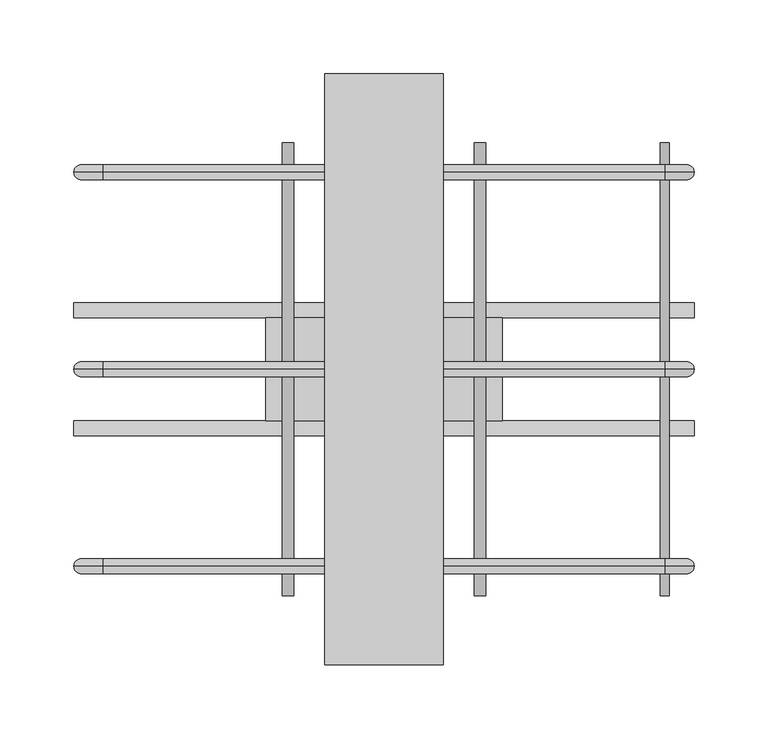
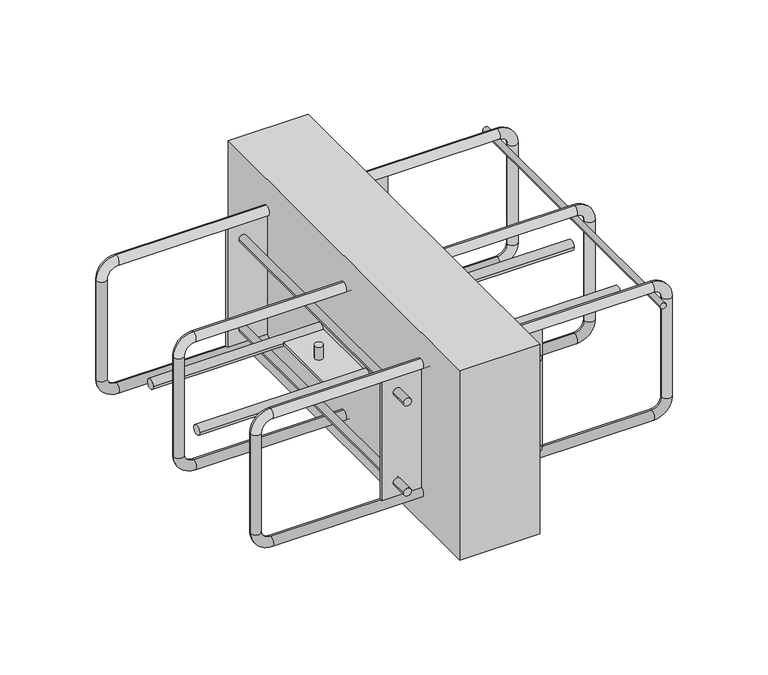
"""IFC4 building model written with IfcOpenShell, lengths in millimetres: proxy geometry, ACINOXplus_Typenreihe_Ux-Ox : OP+ S1."""

from ifc_helpers import new_model, si_unit, point, frame, frame_2d, origin, place, context, project, spatial, polyline, circle_curve, ellipse_curve, trimmed, segment, composite_curve, outline, extrude, source, transform, mapped, element, save
from ifc_brep_helpers import cylinder_surface, revolved_surface, advanced_brep


def generic_models_20547931(model_context):
    return source(origin(), model_context, "Body", "SolidModel", [
        extrude(outline(composite_curve([segment(trimmed(circle_curve(frame_2d((-40.5, 190.0)), 3.0), [point((-40.5, 193.0))], [point((-40.5, 187.0))], False, "CARTESIAN"), True, "CONTINUOUS"), segment(trimmed(circle_curve(frame_2d((-40.5, 190.0)), 3.0), [point((-40.5, 187.0))], [point((-40.5, 193.0))], False, "CARTESIAN"), True, "CONTINUOUS")], self_intersect=False)), frame((0.0, -153.3333333, 0.0), z_axis=(0.0, 1.0, 0.0), x_axis=(0.0, 0.0, 1.0)), (0.0, 0.0, 1.0), 306.6666667),
        extrude(outline(polyline([(40.0, 200.0), (40.0, -200.0), (-40.0, -200.0), (-40.0, 200.0), (40.0, 200.0)])), frame((0.0, 0.0, -200.0), z_axis=(0.0, 0.0, 1.0), x_axis=(1.0, 0.0, 0.0)), (0.0, 0.0, 1.0), 200.0),
        extrude(outline(composite_curve([segment(trimmed(circle_curve(frame_2d((-40.0, -100.0)), 5.0), [point((-45.0, -100.0))], [point((-35.0, -100.0))], False, "CARTESIAN"), True, "CONTINUOUS"), segment(trimmed(circle_curve(frame_2d((-40.0, -100.0)), 5.0), [point((-35.0, -100.0))], [point((-45.0, -100.0))], False, "CARTESIAN"), True, "CONTINUOUS")], self_intersect=False)), frame((-210.0, 0.0, 0.0), z_axis=(1.0, 0.0, 0.0), x_axis=(0.0, 1.0, 0.0)), (0.0, 0.0, 1.0), 420.0),
        extrude(outline(composite_curve([segment(trimmed(circle_curve(frame_2d((40.0, -100.0)), 5.0), [point((35.0, -100.0))], [point((45.0, -100.0))], False, "CARTESIAN"), True, "CONTINUOUS"), segment(trimmed(circle_curve(frame_2d((40.0, -100.0)), 5.0), [point((45.0, -100.0))], [point((35.0, -100.0))], False, "CARTESIAN"), True, "CONTINUOUS")], self_intersect=False)), frame((-210.0, 0.0, 0.0), z_axis=(1.0, 0.0, 0.0), x_axis=(0.0, 1.0, 0.0)), (0.0, 0.0, 1.0), 420.0),
        extrude(outline(composite_curve([segment(trimmed(circle_curve(frame_2d((-65.0, 0.0)), 4.0), [point((-61.0, 0.0))], [point((-69.0, 0.0))], False, "CARTESIAN"), True, "CONTINUOUS"), segment(trimmed(circle_curve(frame_2d((-65.0, 0.0)), 4.0), [point((-69.0, 0.0))], [point((-61.0, 0.0))], False, "CARTESIAN"), True, "CONTINUOUS")], self_intersect=False)), frame((0.0, 0.0, -98.5), z_axis=(0.0, 0.0, 1.0), x_axis=(1.0, 0.0, 0.0)), (0.0, 0.0, 1.0), 13.5),
        extrude(outline(composite_curve([segment(trimmed(circle_curve(frame_2d((65.0, 0.0)), 4.0), [point((69.0, 0.0))], [point((61.0, 0.0))], False, "CARTESIAN"), True, "CONTINUOUS"), segment(trimmed(circle_curve(frame_2d((65.0, 0.0)), 4.0), [point((61.0, 0.0))], [point((69.0, 0.0))], False, "CARTESIAN"), True, "CONTINUOUS")], self_intersect=False)), frame((0.0, 0.0, -98.5), z_axis=(0.0, 0.0, 1.0), x_axis=(1.0, 0.0, 0.0)), (0.0, 0.0, 1.0), 13.5),
        extrude(outline(composite_curve([segment(trimmed(circle_curve(frame_2d((-65.0, 0.0)), 4.0), [point((-69.0, 0.0))], [point((-61.0, 0.0))], False, "CARTESIAN"), True, "CONTINUOUS"), segment(trimmed(circle_curve(frame_2d((-65.0, 0.0)), 4.0), [point((-61.0, 0.0))], [point((-69.0, 0.0))], False, "CARTESIAN"), True, "CONTINUOUS")], self_intersect=False)), frame((0.0, 0.0, -115.0), z_axis=(0.0, 0.0, 1.0), x_axis=(1.0, 0.0, 0.0)), (0.0, 0.0, 1.0), 13.5),
        extrude(outline(composite_curve([segment(trimmed(circle_curve(frame_2d((65.0, 0.0)), 4.0), [point((61.0, 0.0))], [point((69.0, 0.0))], False, "CARTESIAN"), True, "CONTINUOUS"), segment(trimmed(circle_curve(frame_2d((65.0, 0.0)), 4.0), [point((69.0, 0.0))], [point((61.0, 0.0))], False, "CARTESIAN"), True, "CONTINUOUS")], self_intersect=False)), frame((0.0, 0.0, -115.0), z_axis=(0.0, 0.0, 1.0), x_axis=(1.0, 0.0, 0.0)), (0.0, 0.0, 1.0), 13.5),
        extrude(outline(polyline([(80.0, 35.0), (80.0, -35.0), (-80.0, -35.0), (-80.0, 35.0), (80.0, 35.0)])), frame((0.0, 0.0, -101.5), z_axis=(0.0, 0.0, 1.0), x_axis=(1.0, 0.0, 0.0)), (0.0, 0.0, 1.0), 3.0),
        extrude(outline(polyline([(80.0, -131.8333333), (80.0, -134.8333333), (-80.0, -134.8333333), (-80.0, -131.8333333), (80.0, -131.8333333)])), frame((0.0, 0.0, -162.5), z_axis=(0.0, 0.0, 1.0), x_axis=(1.0, 0.0, 0.0)), (0.0, 0.0, 1.0), 125.0),
        extrude(outline(polyline([(80.0, 134.8333333), (80.0, 131.8333333), (-80.0, 131.8333333), (-80.0, 134.8333333), (80.0, 134.8333333)])), frame((0.0, 0.0, -162.5), z_axis=(0.0, 0.0, 1.0), x_axis=(1.0, 0.0, 0.0)), (0.0, 0.0, 1.0), 125.0),
        extrude(outline(composite_curve([segment(trimmed(circle_curve(frame_2d((-147.5, -65.0)), 4.0), [point((-147.5, -69.0))], [point((-147.5, -61.0))], False, "CARTESIAN"), True, "CONTINUOUS"), segment(trimmed(circle_curve(frame_2d((-147.5, -65.0)), 4.0), [point((-147.5, -61.0))], [point((-147.5, -69.0))], False, "CARTESIAN"), True, "CONTINUOUS")], self_intersect=False)), frame((0.0, 134.8333333, 0.0), z_axis=(0.0, 1.0, 0.0), x_axis=(0.0, 0.0, 1.0)), (0.0, 0.0, 1.0), 18.5),
        extrude(outline(composite_curve([segment(trimmed(circle_curve(frame_2d((-147.5, -65.0)), 4.0), [point((-147.5, -61.0))], [point((-147.5, -69.0))], False, "CARTESIAN"), True, "CONTINUOUS"), segment(trimmed(circle_curve(frame_2d((-147.5, -65.0)), 4.0), [point((-147.5, -69.0))], [point((-147.5, -61.0))], False, "CARTESIAN"), True, "CONTINUOUS")], self_intersect=False)), frame((0.0, -153.3333333, 0.0), z_axis=(0.0, 1.0, 0.0), x_axis=(0.0, 0.0, 1.0)), (0.0, 0.0, 1.0), 18.5),
        extrude(outline(composite_curve([segment(trimmed(circle_curve(frame_2d((-147.5, -65.0)), 4.0), [point((-147.5, -69.0))], [point((-147.5, -61.0))], False, "CARTESIAN"), True, "CONTINUOUS"), segment(trimmed(circle_curve(frame_2d((-147.5, -65.0)), 4.0), [point((-147.5, -61.0))], [point((-147.5, -69.0))], False, "CARTESIAN"), True, "CONTINUOUS")], self_intersect=False)), frame((0.0, -131.8333333, 0.0), z_axis=(0.0, 1.0, 0.0), x_axis=(0.0, 0.0, 1.0)), (0.0, 0.0, 1.0), 263.6666667),
        extrude(outline(composite_curve([segment(trimmed(circle_curve(frame_2d((-147.5, 65.0)), 4.0), [point((-147.5, 61.0))], [point((-147.5, 69.0))], False, "CARTESIAN"), True, "CONTINUOUS"), segment(trimmed(circle_curve(frame_2d((-147.5, 65.0)), 4.0), [point((-147.5, 69.0))], [point((-147.5, 61.0))], False, "CARTESIAN"), True, "CONTINUOUS")], self_intersect=False)), frame((0.0, 134.8333333, 0.0), z_axis=(0.0, 1.0, 0.0), x_axis=(0.0, 0.0, 1.0)), (0.0, 0.0, 1.0), 18.5),
        extrude(outline(composite_curve([segment(trimmed(circle_curve(frame_2d((-147.5, 65.0)), 4.0), [point((-147.5, 69.0))], [point((-147.5, 61.0))], False, "CARTESIAN"), True, "CONTINUOUS"), segment(trimmed(circle_curve(frame_2d((-147.5, 65.0)), 4.0), [point((-147.5, 61.0))], [point((-147.5, 69.0))], False, "CARTESIAN"), True, "CONTINUOUS")], self_intersect=False)), frame((0.0, -153.3333333, 0.0), z_axis=(0.0, 1.0, 0.0), x_axis=(0.0, 0.0, 1.0)), (0.0, 0.0, 1.0), 18.5),
        extrude(outline(composite_curve([segment(trimmed(circle_curve(frame_2d((-147.5, 65.0)), 4.0), [point((-147.5, 61.0))], [point((-147.5, 69.0))], False, "CARTESIAN"), True, "CONTINUOUS"), segment(trimmed(circle_curve(frame_2d((-147.5, 65.0)), 4.0), [point((-147.5, 69.0))], [point((-147.5, 61.0))], False, "CARTESIAN"), True, "CONTINUOUS")], self_intersect=False)), frame((0.0, -131.8333333, 0.0), z_axis=(0.0, 1.0, 0.0), x_axis=(0.0, 0.0, 1.0)), (0.0, 0.0, 1.0), 263.6666667),
        extrude(outline(composite_curve([segment(trimmed(circle_curve(frame_2d((-52.5, -65.0)), 4.0), [point((-52.5, -69.0))], [point((-52.5, -61.0))], False, "CARTESIAN"), True, "CONTINUOUS"), segment(trimmed(circle_curve(frame_2d((-52.5, -65.0)), 4.0), [point((-52.5, -61.0))], [point((-52.5, -69.0))], False, "CARTESIAN"), True, "CONTINUOUS")], self_intersect=False)), frame((0.0, 134.8333333, 0.0), z_axis=(0.0, 1.0, 0.0), x_axis=(0.0, 0.0, 1.0)), (0.0, 0.0, 1.0), 18.5),
        extrude(outline(composite_curve([segment(trimmed(circle_curve(frame_2d((-52.5, -65.0)), 4.0), [point((-52.5, -61.0))], [point((-52.5, -69.0))], False, "CARTESIAN"), True, "CONTINUOUS"), segment(trimmed(circle_curve(frame_2d((-52.5, -65.0)), 4.0), [point((-52.5, -69.0))], [point((-52.5, -61.0))], False, "CARTESIAN"), True, "CONTINUOUS")], self_intersect=False)), frame((0.0, -153.3333333, 0.0), z_axis=(0.0, 1.0, 0.0), x_axis=(0.0, 0.0, 1.0)), (0.0, 0.0, 1.0), 18.5),
        extrude(outline(composite_curve([segment(trimmed(circle_curve(frame_2d((-52.5, -65.0)), 4.0), [point((-52.5, -69.0))], [point((-52.5, -61.0))], False, "CARTESIAN"), True, "CONTINUOUS"), segment(trimmed(circle_curve(frame_2d((-52.5, -65.0)), 4.0), [point((-52.5, -61.0))], [point((-52.5, -69.0))], False, "CARTESIAN"), True, "CONTINUOUS")], self_intersect=False)), frame((0.0, -131.8333333, 0.0), z_axis=(0.0, 1.0, 0.0), x_axis=(0.0, 0.0, 1.0)), (0.0, 0.0, 1.0), 263.6666667),
        extrude(outline(composite_curve([segment(trimmed(circle_curve(frame_2d((-52.5, 65.0)), 4.0), [point((-52.5, 61.0))], [point((-52.5, 69.0))], False, "CARTESIAN"), True, "CONTINUOUS"), segment(trimmed(circle_curve(frame_2d((-52.5, 65.0)), 4.0), [point((-52.5, 69.0))], [point((-52.5, 61.0))], False, "CARTESIAN"), True, "CONTINUOUS")], self_intersect=False)), frame((0.0, 134.8333333, 0.0), z_axis=(0.0, 1.0, 0.0), x_axis=(0.0, 0.0, 1.0)), (0.0, 0.0, 1.0), 18.5),
        extrude(outline(composite_curve([segment(trimmed(circle_curve(frame_2d((-52.5, 65.0)), 4.0), [point((-52.5, 69.0))], [point((-52.5, 61.0))], False, "CARTESIAN"), True, "CONTINUOUS"), segment(trimmed(circle_curve(frame_2d((-52.5, 65.0)), 4.0), [point((-52.5, 61.0))], [point((-52.5, 69.0))], False, "CARTESIAN"), True, "CONTINUOUS")], self_intersect=False)), frame((0.0, -153.3333333, 0.0), z_axis=(0.0, 1.0, 0.0), x_axis=(0.0, 0.0, 1.0)), (0.0, 0.0, 1.0), 18.5),
        extrude(outline(composite_curve([segment(trimmed(circle_curve(frame_2d((-52.5, 65.0)), 4.0), [point((-52.5, 61.0))], [point((-52.5, 69.0))], False, "CARTESIAN"), True, "CONTINUOUS"), segment(trimmed(circle_curve(frame_2d((-52.5, 65.0)), 4.0), [point((-52.5, 69.0))], [point((-52.5, 61.0))], False, "CARTESIAN"), True, "CONTINUOUS")], self_intersect=False)), frame((0.0, -131.8333333, 0.0), z_axis=(0.0, 1.0, 0.0), x_axis=(0.0, 0.0, 1.0)), (0.0, 0.0, 1.0), 263.6666667),
        advanced_brep(
        [(190.0, 0.0, -37.5), (190.0, 0.0, -27.5), (-190.0, 0.0, -27.5), (-190.0, 0.0, -37.5), (-200.0, 0.0, -47.5), (-210.0, 0.0, -47.5), (-210.0, 0.0, -152.5), (-200.0, 0.0, -152.5), (-190.0, 0.0, -162.5), (-190.0, 0.0, -172.5), (190.0, 0.0, -172.5), (190.0, 0.0, -162.5), (200.0, 0.0, -152.5), (210.0, 0.0, -152.5), (210.0, 0.0, -47.5), (200.0, 0.0, -47.5)],
        [
            (0, 1, circle_curve(frame((190.0, 0.0, -32.5), z_axis=(-1.0, 0.0, 0.0), x_axis=(0.0, 0.0, -1.0)), 5.0)),
            (1, 2),
            (2, 3, circle_curve(frame((-190.0, 0.0, -32.5), z_axis=(1.0, 0.0, 0.0), x_axis=(0.0, 0.0, -1.0)), 5.0)),
            (3, 0),
            (1, 0, circle_curve(frame((190.0, 0.0, -32.5), z_axis=(-1.0, 0.0, 0.0), x_axis=(0.0, 0.0, -1.0)), 5.0)),
            (3, 2, circle_curve(frame((-190.0, 0.0, -32.5), z_axis=(1.0, 0.0, 0.0), x_axis=(0.0, 0.0, -1.0)), 5.0)),
            (4, 3, circle_curve(frame((-190.0, 0.0, -47.5), z_axis=(0.0, 1.0, 0.0), x_axis=(0.0, 0.0, 1.0)), 10.0)),
            (2, 5, circle_curve(frame((-190.0, 0.0, -47.5), z_axis=(0.0, -1.0, 0.0), x_axis=(0.0, 0.0, 1.0)), 20.0)),
            (5, 4, circle_curve(frame((-205.0, 0.0, -47.5), z_axis=(0.0, 0.0, 1.0), x_axis=(1.0, 0.0, 0.0)), 5.0)),
            (4, 5, circle_curve(frame((-205.0, 0.0, -47.5), z_axis=(0.0, 0.0, 1.0), x_axis=(1.0, 0.0, 0.0)), 5.0)),
            (5, 6),
            (6, 7, circle_curve(frame((-205.0, 0.0, -152.5), z_axis=(0.0, 0.0, 1.0), x_axis=(1.0, 0.0, 0.0)), 5.0)),
            (7, 4),
            (7, 6, circle_curve(frame((-205.0, 0.0, -152.5), z_axis=(0.0, 0.0, 1.0), x_axis=(1.0, 0.0, 0.0)), 5.0)),
            (8, 7, circle_curve(frame((-190.0, 0.0, -152.5), z_axis=(0.0, 1.0, 0.0), x_axis=(-1.0, 0.0, 0.0)), 10.0)),
            (6, 9, circle_curve(frame((-190.0, 0.0, -152.5), z_axis=(0.0, -1.0, 0.0), x_axis=(-1.0, 0.0, 0.0)), 20.0)),
            (9, 8, circle_curve(frame((-190.0, 0.0, -167.5), z_axis=(-1.0, 0.0, 0.0), x_axis=(0.0, 0.0, 1.0)), 5.0)),
            (8, 9, circle_curve(frame((-190.0, 0.0, -167.5), z_axis=(-1.0, 0.0, 0.0), x_axis=(0.0, 0.0, 1.0)), 5.0)),
            (9, 10),
            (10, 11, circle_curve(frame((190.0, 0.0, -167.5), z_axis=(-1.0, 0.0, 0.0), x_axis=(0.0, 0.0, 1.0)), 5.0)),
            (11, 8),
            (11, 10, circle_curve(frame((190.0, 0.0, -167.5), z_axis=(-1.0, 0.0, 0.0), x_axis=(0.0, 0.0, 1.0)), 5.0)),
            (12, 11, circle_curve(frame((190.0, 0.0, -152.5), z_axis=(0.0, 1.0, 0.0), x_axis=(0.0, 0.0, -1.0)), 10.0)),
            (10, 13, circle_curve(frame((190.0, 0.0, -152.5), z_axis=(0.0, -1.0, 0.0), x_axis=(0.0, 0.0, -1.0)), 20.0)),
            (13, 12, circle_curve(frame((205.0, 0.0, -152.5), z_axis=(0.0, 0.0, -1.0), x_axis=(-1.0, 0.0, 0.0)), 5.0)),
            (12, 13, circle_curve(frame((205.0, 0.0, -152.5), z_axis=(0.0, 0.0, -1.0), x_axis=(-1.0, 0.0, 0.0)), 5.0)),
            (13, 14),
            (14, 15, circle_curve(frame((205.0, 0.0, -47.5), z_axis=(0.0, 0.0, -1.0), x_axis=(-1.0, 0.0, 0.0)), 5.0)),
            (15, 12),
            (15, 14, circle_curve(frame((205.0, 0.0, -47.5), z_axis=(0.0, 0.0, -1.0), x_axis=(-1.0, 0.0, 0.0)), 5.0)),
            (0, 15, circle_curve(frame((190.0, 0.0, -47.5), z_axis=(0.0, 1.0, 0.0), x_axis=(1.0, 0.0, 0.0)), 10.0)),
            (14, 1, circle_curve(frame((190.0, 0.0, -47.5), z_axis=(0.0, -1.0, 0.0), x_axis=(1.0, 0.0, 0.0)), 20.0)),
        ],
        [
            cylinder_surface(frame((190.0, 0.0, -32.5), z_axis=(1.0, 0.0, 0.0), x_axis=(0.0, 0.0, -1.0)), 5.0),
            revolved_surface(trimmed(ellipse_curve(frame((-190.0, 0.0, -32.5), z_axis=(1.0, 0.0, 0.0), x_axis=(0.0, 0.0, -1.0)), 5.0, 5.0), [point((-190.0, 0.0, -27.5))], [point((-190.0, 0.0, -37.5))], True, "CARTESIAN"), (-190.0, 0.0, -47.5), (0.0, -1.0, 0.0)),
            revolved_surface(trimmed(ellipse_curve(frame((-190.0, 0.0, -32.5), z_axis=(1.0, 0.0, 0.0), x_axis=(0.0, 0.0, -1.0)), 5.0, 5.0), [point((-190.0, 0.0, -37.5))], [point((-190.0, 0.0, -27.5))], True, "CARTESIAN"), (-190.0, 0.0, -47.5), (0.0, -1.0, 0.0)),
            cylinder_surface(frame((-205.0, 0.0, -47.5), z_axis=(0.0, 0.0, 1.0), x_axis=(1.0, 0.0, 0.0)), 5.0),
            revolved_surface(trimmed(ellipse_curve(frame((-205.0, 0.0, -152.5), z_axis=(0.0, 0.0, 1.0), x_axis=(1.0, 0.0, 0.0)), 5.0, 5.0), [point((-210.0, 0.0, -152.5))], [point((-200.0, 0.0, -152.5))], True, "CARTESIAN"), (-190.0, 0.0, -152.5), (0.0, -1.0, 0.0)),
            revolved_surface(trimmed(ellipse_curve(frame((-205.0, 0.0, -152.5), z_axis=(0.0, 0.0, 1.0), x_axis=(1.0, 0.0, 0.0)), 5.0, 5.0), [point((-200.0, 0.0, -152.5))], [point((-210.0, 0.0, -152.5))], True, "CARTESIAN"), (-190.0, 0.0, -152.5), (0.0, -1.0, 0.0)),
            cylinder_surface(frame((-190.0, 0.0, -167.5), z_axis=(-1.0, 0.0, 0.0), x_axis=(0.0, 0.0, 1.0)), 5.0),
            revolved_surface(trimmed(ellipse_curve(frame((190.0, 0.0, -167.5), z_axis=(-1.0, 0.0, 0.0), x_axis=(0.0, 0.0, 1.0)), 5.0, 5.0), [point((190.0, 0.0, -172.5))], [point((190.0, 0.0, -162.5))], True, "CARTESIAN"), (190.0, 0.0, -152.5), (0.0, -1.0, 0.0)),
            revolved_surface(trimmed(ellipse_curve(frame((190.0, 0.0, -167.5), z_axis=(-1.0, 0.0, 0.0), x_axis=(0.0, 0.0, 1.0)), 5.0, 5.0), [point((190.0, 0.0, -162.5))], [point((190.0, 0.0, -172.5))], True, "CARTESIAN"), (190.0, 0.0, -152.5), (0.0, -1.0, 0.0)),
            cylinder_surface(frame((205.0, 0.0, -152.5), z_axis=(0.0, 0.0, -1.0), x_axis=(-1.0, 0.0, 0.0)), 5.0),
            revolved_surface(trimmed(ellipse_curve(frame((205.0, 0.0, -47.5), z_axis=(0.0, 0.0, -1.0), x_axis=(-1.0, 0.0, 0.0)), 5.0, 5.0), [point((210.0, 0.0, -47.5))], [point((200.0, 0.0, -47.5))], True, "CARTESIAN"), (190.0, 0.0, -47.5), (0.0, -1.0, 0.0)),
            revolved_surface(trimmed(ellipse_curve(frame((205.0, 0.0, -47.5), z_axis=(0.0, 0.0, -1.0), x_axis=(-1.0, 0.0, 0.0)), 5.0, 5.0), [point((200.0, 0.0, -47.5))], [point((210.0, 0.0, -47.5))], True, "CARTESIAN"), (190.0, 0.0, -47.5), (0.0, -1.0, 0.0)),
        ],
        [
            (0, [[1, 2, 3, 4]]),
            (0, [[5, -4, 6, -2]]),
            (1, [[7, -3, 8, 9]]),
            (2, [[-8, -6, -7, 10]]),
            (3, [[-9, 11, 12, 13]]),
            (3, [[-10, -13, 14, -11]]),
            (4, [[15, -12, 16, 17]]),
            (5, [[-16, -14, -15, 18]]),
            (6, [[-17, 19, 20, 21]]),
            (6, [[-18, -21, 22, -19]]),
            (7, [[23, -20, 24, 25]]),
            (8, [[-24, -22, -23, 26]]),
            (9, [[-25, 27, 28, 29]]),
            (9, [[-26, -29, 30, -27]]),
            (10, [[31, -28, 32, -1]]),
            (11, [[-32, -30, -31, -5]]),
        ],
    ),
        advanced_brep(
        [(190.0, 133.3333333, -37.5), (190.0, 133.3333333, -27.5), (-190.0, 133.3333333, -27.5), (-190.0, 133.3333333, -37.5), (-200.0, 133.3333333, -47.5), (-210.0, 133.3333333, -47.5), (-210.0, 133.3333333, -152.5), (-200.0, 133.3333333, -152.5), (-190.0, 133.3333333, -162.5), (-190.0, 133.3333333, -172.5), (190.0, 133.3333333, -172.5), (190.0, 133.3333333, -162.5), (200.0, 133.3333333, -152.5), (210.0, 133.3333333, -152.5), (210.0, 133.3333333, -47.5), (200.0, 133.3333333, -47.5)],
        [
            (0, 1, circle_curve(frame((190.0, 133.3333333, -32.5), z_axis=(-1.0, 0.0, 0.0), x_axis=(0.0, 0.0, -1.0)), 5.0)),
            (1, 2),
            (2, 3, circle_curve(frame((-190.0, 133.3333333, -32.5), z_axis=(1.0, 0.0, 0.0), x_axis=(0.0, 0.0, -1.0)), 5.0)),
            (3, 0),
            (1, 0, circle_curve(frame((190.0, 133.3333333, -32.5), z_axis=(-1.0, 0.0, 0.0), x_axis=(0.0, 0.0, -1.0)), 5.0)),
            (3, 2, circle_curve(frame((-190.0, 133.3333333, -32.5), z_axis=(1.0, 0.0, 0.0), x_axis=(0.0, 0.0, -1.0)), 5.0)),
            (4, 3, circle_curve(frame((-190.0, 133.3333333, -47.5), z_axis=(0.0, 1.0, 0.0), x_axis=(0.0, 0.0, 1.0)), 10.0)),
            (2, 5, circle_curve(frame((-190.0, 133.3333333, -47.5), z_axis=(0.0, -1.0, 0.0), x_axis=(0.0, 0.0, 1.0)), 20.0)),
            (5, 4, circle_curve(frame((-205.0, 133.3333333, -47.5), z_axis=(0.0, 0.0, 1.0), x_axis=(1.0, 0.0, 0.0)), 5.0)),
            (4, 5, circle_curve(frame((-205.0, 133.3333333, -47.5), z_axis=(0.0, 0.0, 1.0), x_axis=(1.0, 0.0, 0.0)), 5.0)),
            (5, 6),
            (6, 7, circle_curve(frame((-205.0, 133.3333333, -152.5), z_axis=(0.0, 0.0, 1.0), x_axis=(1.0, 0.0, 0.0)), 5.0)),
            (7, 4),
            (7, 6, circle_curve(frame((-205.0, 133.3333333, -152.5), z_axis=(0.0, 0.0, 1.0), x_axis=(1.0, 0.0, 0.0)), 5.0)),
            (8, 7, circle_curve(frame((-190.0, 133.3333333, -152.5), z_axis=(0.0, 1.0, 0.0), x_axis=(-1.0, 0.0, 0.0)), 10.0)),
            (6, 9, circle_curve(frame((-190.0, 133.3333333, -152.5), z_axis=(0.0, -1.0, 0.0), x_axis=(-1.0, 0.0, 0.0)), 20.0)),
            (9, 8, circle_curve(frame((-190.0, 133.3333333, -167.5), z_axis=(-1.0, 0.0, 0.0), x_axis=(0.0, 0.0, 1.0)), 5.0)),
            (8, 9, circle_curve(frame((-190.0, 133.3333333, -167.5), z_axis=(-1.0, 0.0, 0.0), x_axis=(0.0, 0.0, 1.0)), 5.0)),
            (9, 10),
            (10, 11, circle_curve(frame((190.0, 133.3333333, -167.5), z_axis=(-1.0, 0.0, 0.0), x_axis=(0.0, 0.0, 1.0)), 5.0)),
            (11, 8),
            (11, 10, circle_curve(frame((190.0, 133.3333333, -167.5), z_axis=(-1.0, 0.0, 0.0), x_axis=(0.0, 0.0, 1.0)), 5.0)),
            (12, 11, circle_curve(frame((190.0, 133.3333333, -152.5), z_axis=(0.0, 1.0, 0.0), x_axis=(0.0, 0.0, -1.0)), 10.0)),
            (10, 13, circle_curve(frame((190.0, 133.3333333, -152.5), z_axis=(0.0, -1.0, 0.0), x_axis=(0.0, 0.0, -1.0)), 20.0)),
            (13, 12, circle_curve(frame((205.0, 133.3333333, -152.5), z_axis=(0.0, 0.0, -1.0), x_axis=(-1.0, 0.0, 0.0)), 5.0)),
            (12, 13, circle_curve(frame((205.0, 133.3333333, -152.5), z_axis=(0.0, 0.0, -1.0), x_axis=(-1.0, 0.0, 0.0)), 5.0)),
            (13, 14),
            (14, 15, circle_curve(frame((205.0, 133.3333333, -47.5), z_axis=(0.0, 0.0, -1.0), x_axis=(-1.0, 0.0, 0.0)), 5.0)),
            (15, 12),
            (15, 14, circle_curve(frame((205.0, 133.3333333, -47.5), z_axis=(0.0, 0.0, -1.0), x_axis=(-1.0, 0.0, 0.0)), 5.0)),
            (0, 15, circle_curve(frame((190.0, 133.3333333, -47.5), z_axis=(0.0, 1.0, 0.0), x_axis=(1.0, 0.0, 0.0)), 10.0)),
            (14, 1, circle_curve(frame((190.0, 133.3333333, -47.5), z_axis=(0.0, -1.0, 0.0), x_axis=(1.0, 0.0, 0.0)), 20.0)),
        ],
        [
            cylinder_surface(frame((190.0, 133.3333333, -32.5), z_axis=(1.0, 0.0, 0.0), x_axis=(0.0, 0.0, -1.0)), 5.0),
            revolved_surface(trimmed(ellipse_curve(frame((-190.0, 133.3333333, -32.5), z_axis=(1.0, 0.0, 0.0), x_axis=(0.0, 0.0, -1.0)), 5.0, 5.0), [point((-190.0, 133.3333333, -27.5))], [point((-190.0, 133.3333333, -37.5))], True, "CARTESIAN"), (-190.0, 133.3333333, -47.5), (0.0, -1.0, 0.0)),
            revolved_surface(trimmed(ellipse_curve(frame((-190.0, 133.3333333, -32.5), z_axis=(1.0, 0.0, 0.0), x_axis=(0.0, 0.0, -1.0)), 5.0, 5.0), [point((-190.0, 133.3333333, -37.5))], [point((-190.0, 133.3333333, -27.5))], True, "CARTESIAN"), (-190.0, 133.3333333, -47.5), (0.0, -1.0, 0.0)),
            cylinder_surface(frame((-205.0, 133.3333333, -47.5), z_axis=(0.0, 0.0, 1.0), x_axis=(1.0, 0.0, 0.0)), 5.0),
            revolved_surface(trimmed(ellipse_curve(frame((-205.0, 133.3333333, -152.5), z_axis=(0.0, 0.0, 1.0), x_axis=(1.0, 0.0, 0.0)), 5.0, 5.0), [point((-210.0, 133.3333333, -152.5))], [point((-200.0, 133.3333333, -152.5))], True, "CARTESIAN"), (-190.0, 133.3333333, -152.5), (0.0, -1.0, 0.0)),
            revolved_surface(trimmed(ellipse_curve(frame((-205.0, 133.3333333, -152.5), z_axis=(0.0, 0.0, 1.0), x_axis=(1.0, 0.0, 0.0)), 5.0, 5.0), [point((-200.0, 133.3333333, -152.5))], [point((-210.0, 133.3333333, -152.5))], True, "CARTESIAN"), (-190.0, 133.3333333, -152.5), (0.0, -1.0, 0.0)),
            cylinder_surface(frame((-190.0, 133.3333333, -167.5), z_axis=(-1.0, 0.0, 0.0), x_axis=(0.0, 0.0, 1.0)), 5.0),
            revolved_surface(trimmed(ellipse_curve(frame((190.0, 133.3333333, -167.5), z_axis=(-1.0, 0.0, 0.0), x_axis=(0.0, 0.0, 1.0)), 5.0, 5.0), [point((190.0, 133.3333333, -172.5))], [point((190.0, 133.3333333, -162.5))], True, "CARTESIAN"), (190.0, 133.3333333, -152.5), (0.0, -1.0, 0.0)),
            revolved_surface(trimmed(ellipse_curve(frame((190.0, 133.3333333, -167.5), z_axis=(-1.0, 0.0, 0.0), x_axis=(0.0, 0.0, 1.0)), 5.0, 5.0), [point((190.0, 133.3333333, -162.5))], [point((190.0, 133.3333333, -172.5))], True, "CARTESIAN"), (190.0, 133.3333333, -152.5), (0.0, -1.0, 0.0)),
            cylinder_surface(frame((205.0, 133.3333333, -152.5), z_axis=(0.0, 0.0, -1.0), x_axis=(-1.0, 0.0, 0.0)), 5.0),
            revolved_surface(trimmed(ellipse_curve(frame((205.0, 133.3333333, -47.5), z_axis=(0.0, 0.0, -1.0), x_axis=(-1.0, 0.0, 0.0)), 5.0, 5.0), [point((210.0, 133.3333333, -47.5))], [point((200.0, 133.3333333, -47.5))], True, "CARTESIAN"), (190.0, 133.3333333, -47.5), (0.0, -1.0, 0.0)),
            revolved_surface(trimmed(ellipse_curve(frame((205.0, 133.3333333, -47.5), z_axis=(0.0, 0.0, -1.0), x_axis=(-1.0, 0.0, 0.0)), 5.0, 5.0), [point((200.0, 133.3333333, -47.5))], [point((210.0, 133.3333333, -47.5))], True, "CARTESIAN"), (190.0, 133.3333333, -47.5), (0.0, -1.0, 0.0)),
        ],
        [
            (0, [[1, 2, 3, 4]]),
            (0, [[5, -4, 6, -2]]),
            (1, [[7, -3, 8, 9]]),
            (2, [[-8, -6, -7, 10]]),
            (3, [[-9, 11, 12, 13]]),
            (3, [[-10, -13, 14, -11]]),
            (4, [[15, -12, 16, 17]]),
            (5, [[-16, -14, -15, 18]]),
            (6, [[-17, 19, 20, 21]]),
            (6, [[-18, -21, 22, -19]]),
            (7, [[23, -20, 24, 25]]),
            (8, [[-24, -22, -23, 26]]),
            (9, [[-25, 27, 28, 29]]),
            (9, [[-26, -29, 30, -27]]),
            (10, [[31, -28, 32, -1]]),
            (11, [[-32, -30, -31, -5]]),
        ],
    ),
        advanced_brep(
        [(190.0, -133.3333333, -37.5), (190.0, -133.3333333, -27.5), (-190.0, -133.3333333, -27.5), (-190.0, -133.3333333, -37.5), (-200.0, -133.3333333, -47.5), (-210.0, -133.3333333, -47.5), (-210.0, -133.3333333, -152.5), (-200.0, -133.3333333, -152.5), (-190.0, -133.3333333, -162.5), (-190.0, -133.3333333, -172.5), (190.0, -133.3333333, -172.5), (190.0, -133.3333333, -162.5), (200.0, -133.3333333, -152.5), (210.0, -133.3333333, -152.5), (210.0, -133.3333333, -47.5), (200.0, -133.3333333, -47.5)],
        [
            (0, 1, circle_curve(frame((190.0, -133.3333333, -32.5), z_axis=(-1.0, 0.0, 0.0), x_axis=(0.0, 0.0, -1.0)), 5.0)),
            (1, 2),
            (2, 3, circle_curve(frame((-190.0, -133.3333333, -32.5), z_axis=(1.0, 0.0, 0.0), x_axis=(0.0, 0.0, -1.0)), 5.0)),
            (3, 0),
            (1, 0, circle_curve(frame((190.0, -133.3333333, -32.5), z_axis=(-1.0, 0.0, 0.0), x_axis=(0.0, 0.0, -1.0)), 5.0)),
            (3, 2, circle_curve(frame((-190.0, -133.3333333, -32.5), z_axis=(1.0, 0.0, 0.0), x_axis=(0.0, 0.0, -1.0)), 5.0)),
            (4, 3, circle_curve(frame((-190.0, -133.3333333, -47.5), z_axis=(0.0, 1.0, 0.0), x_axis=(0.0, 0.0, 1.0)), 10.0)),
            (2, 5, circle_curve(frame((-190.0, -133.3333333, -47.5), z_axis=(0.0, -1.0, 0.0), x_axis=(0.0, 0.0, 1.0)), 20.0)),
            (5, 4, circle_curve(frame((-205.0, -133.3333333, -47.5), z_axis=(0.0, 0.0, 1.0), x_axis=(1.0, 0.0, 0.0)), 5.0)),
            (4, 5, circle_curve(frame((-205.0, -133.3333333, -47.5), z_axis=(0.0, 0.0, 1.0), x_axis=(1.0, 0.0, 0.0)), 5.0)),
            (5, 6),
            (6, 7, circle_curve(frame((-205.0, -133.3333333, -152.5), z_axis=(0.0, 0.0, 1.0), x_axis=(1.0, 0.0, 0.0)), 5.0)),
            (7, 4),
            (7, 6, circle_curve(frame((-205.0, -133.3333333, -152.5), z_axis=(0.0, 0.0, 1.0), x_axis=(1.0, 0.0, 0.0)), 5.0)),
            (8, 7, circle_curve(frame((-190.0, -133.3333333, -152.5), z_axis=(0.0, 1.0, 0.0), x_axis=(-1.0, 0.0, 0.0)), 10.0)),
            (6, 9, circle_curve(frame((-190.0, -133.3333333, -152.5), z_axis=(0.0, -1.0, 0.0), x_axis=(-1.0, 0.0, 0.0)), 20.0)),
            (9, 8, circle_curve(frame((-190.0, -133.3333333, -167.5), z_axis=(-1.0, 0.0, 0.0), x_axis=(0.0, 0.0, 1.0)), 5.0)),
            (8, 9, circle_curve(frame((-190.0, -133.3333333, -167.5), z_axis=(-1.0, 0.0, 0.0), x_axis=(0.0, 0.0, 1.0)), 5.0)),
            (9, 10),
            (10, 11, circle_curve(frame((190.0, -133.3333333, -167.5), z_axis=(-1.0, 0.0, 0.0), x_axis=(0.0, 0.0, 1.0)), 5.0)),
            (11, 8),
            (11, 10, circle_curve(frame((190.0, -133.3333333, -167.5), z_axis=(-1.0, 0.0, 0.0), x_axis=(0.0, 0.0, 1.0)), 5.0)),
            (12, 11, circle_curve(frame((190.0, -133.3333333, -152.5), z_axis=(0.0, 1.0, 0.0), x_axis=(0.0, 0.0, -1.0)), 10.0)),
            (10, 13, circle_curve(frame((190.0, -133.3333333, -152.5), z_axis=(0.0, -1.0, 0.0), x_axis=(0.0, 0.0, -1.0)), 20.0)),
            (13, 12, circle_curve(frame((205.0, -133.3333333, -152.5), z_axis=(0.0, 0.0, -1.0), x_axis=(-1.0, 0.0, 0.0)), 5.0)),
            (12, 13, circle_curve(frame((205.0, -133.3333333, -152.5), z_axis=(0.0, 0.0, -1.0), x_axis=(-1.0, 0.0, 0.0)), 5.0)),
            (13, 14),
            (14, 15, circle_curve(frame((205.0, -133.3333333, -47.5), z_axis=(0.0, 0.0, -1.0), x_axis=(-1.0, 0.0, 0.0)), 5.0)),
            (15, 12),
            (15, 14, circle_curve(frame((205.0, -133.3333333, -47.5), z_axis=(0.0, 0.0, -1.0), x_axis=(-1.0, 0.0, 0.0)), 5.0)),
            (0, 15, circle_curve(frame((190.0, -133.3333333, -47.5), z_axis=(0.0, 1.0, 0.0), x_axis=(1.0, 0.0, 0.0)), 10.0)),
            (14, 1, circle_curve(frame((190.0, -133.3333333, -47.5), z_axis=(0.0, -1.0, 0.0), x_axis=(1.0, 0.0, 0.0)), 20.0)),
        ],
        [
            cylinder_surface(frame((190.0, -133.3333333, -32.5), z_axis=(1.0, 0.0, 0.0), x_axis=(0.0, 0.0, -1.0)), 5.0),
            revolved_surface(trimmed(ellipse_curve(frame((-190.0, -133.3333333, -32.5), z_axis=(1.0, 0.0, 0.0), x_axis=(0.0, 0.0, -1.0)), 5.0, 5.0), [point((-190.0, -133.3333333, -27.5))], [point((-190.0, -133.3333333, -37.5))], True, "CARTESIAN"), (-190.0, -133.3333333, -47.5), (0.0, -1.0, 0.0)),
            revolved_surface(trimmed(ellipse_curve(frame((-190.0, -133.3333333, -32.5), z_axis=(1.0, 0.0, 0.0), x_axis=(0.0, 0.0, -1.0)), 5.0, 5.0), [point((-190.0, -133.3333333, -37.5))], [point((-190.0, -133.3333333, -27.5))], True, "CARTESIAN"), (-190.0, -133.3333333, -47.5), (0.0, -1.0, 0.0)),
            cylinder_surface(frame((-205.0, -133.3333333, -47.5), z_axis=(0.0, 0.0, 1.0), x_axis=(1.0, 0.0, 0.0)), 5.0),
            revolved_surface(trimmed(ellipse_curve(frame((-205.0, -133.3333333, -152.5), z_axis=(0.0, 0.0, 1.0), x_axis=(1.0, 0.0, 0.0)), 5.0, 5.0), [point((-210.0, -133.3333333, -152.5))], [point((-200.0, -133.3333333, -152.5))], True, "CARTESIAN"), (-190.0, -133.3333333, -152.5), (0.0, -1.0, 0.0)),
            revolved_surface(trimmed(ellipse_curve(frame((-205.0, -133.3333333, -152.5), z_axis=(0.0, 0.0, 1.0), x_axis=(1.0, 0.0, 0.0)), 5.0, 5.0), [point((-200.0, -133.3333333, -152.5))], [point((-210.0, -133.3333333, -152.5))], True, "CARTESIAN"), (-190.0, -133.3333333, -152.5), (0.0, -1.0, 0.0)),
            cylinder_surface(frame((-190.0, -133.3333333, -167.5), z_axis=(-1.0, 0.0, 0.0), x_axis=(0.0, 0.0, 1.0)), 5.0),
            revolved_surface(trimmed(ellipse_curve(frame((190.0, -133.3333333, -167.5), z_axis=(-1.0, 0.0, 0.0), x_axis=(0.0, 0.0, 1.0)), 5.0, 5.0), [point((190.0, -133.3333333, -172.5))], [point((190.0, -133.3333333, -162.5))], True, "CARTESIAN"), (190.0, -133.3333333, -152.5), (0.0, -1.0, 0.0)),
            revolved_surface(trimmed(ellipse_curve(frame((190.0, -133.3333333, -167.5), z_axis=(-1.0, 0.0, 0.0), x_axis=(0.0, 0.0, 1.0)), 5.0, 5.0), [point((190.0, -133.3333333, -162.5))], [point((190.0, -133.3333333, -172.5))], True, "CARTESIAN"), (190.0, -133.3333333, -152.5), (0.0, -1.0, 0.0)),
            cylinder_surface(frame((205.0, -133.3333333, -152.5), z_axis=(0.0, 0.0, -1.0), x_axis=(-1.0, 0.0, 0.0)), 5.0),
            revolved_surface(trimmed(ellipse_curve(frame((205.0, -133.3333333, -47.5), z_axis=(0.0, 0.0, -1.0), x_axis=(-1.0, 0.0, 0.0)), 5.0, 5.0), [point((210.0, -133.3333333, -47.5))], [point((200.0, -133.3333333, -47.5))], True, "CARTESIAN"), (190.0, -133.3333333, -47.5), (0.0, -1.0, 0.0)),
            revolved_surface(trimmed(ellipse_curve(frame((205.0, -133.3333333, -47.5), z_axis=(0.0, 0.0, -1.0), x_axis=(-1.0, 0.0, 0.0)), 5.0, 5.0), [point((200.0, -133.3333333, -47.5))], [point((210.0, -133.3333333, -47.5))], True, "CARTESIAN"), (190.0, -133.3333333, -47.5), (0.0, -1.0, 0.0)),
        ],
        [
            (0, [[1, 2, 3, 4]]),
            (0, [[5, -4, 6, -2]]),
            (1, [[7, -3, 8, 9]]),
            (2, [[-8, -6, -7, 10]]),
            (3, [[-9, 11, 12, 13]]),
            (3, [[-10, -13, 14, -11]]),
            (4, [[15, -12, 16, 17]]),
            (5, [[-16, -14, -15, 18]]),
            (6, [[-17, 19, 20, 21]]),
            (6, [[-18, -21, 22, -19]]),
            (7, [[23, -20, 24, 25]]),
            (8, [[-24, -22, -23, 26]]),
            (9, [[-25, 27, 28, 29]]),
            (9, [[-26, -29, 30, -27]]),
            (10, [[31, -28, 32, -1]]),
            (11, [[-32, -30, -31, -5]]),
        ],
    ),
    ])


if __name__ == "__main__":
    model = new_model("IFC4")
    model_context = context("Model", 3, world=origin())
    ifc_project = project(units=[si_unit("LENGTHUNIT", "METRE", prefix="MILLI")], contexts=[model_context])
    site = spatial("IfcSite", under=ifc_project)
    building = spatial("IfcBuilding", under=site)
    placement = place(None, origin())
    generic_models_shape = generic_models_20547931(model_context)
    element("IfcBuildingElementProxy", 1, Name="ACINOXplus_Typenreihe_Ux-Ox : OP+ S1", ObjectType="ACINOXplus_Typenreihe_Ux-Ox : OP+ S1", at=placement, inside=building, context=model_context, shape_type="MappedRepresentation", body=[
        mapped(generic_models_shape, transform((0.0, 0.0, 0.0), x_axis=(1.0, 0.0, 0.0), y_axis=(0.0, 1.0, 0.0), z_axis=(0.0, 0.0, 1.0))),
    ])
    save(model, "model.ifc")
